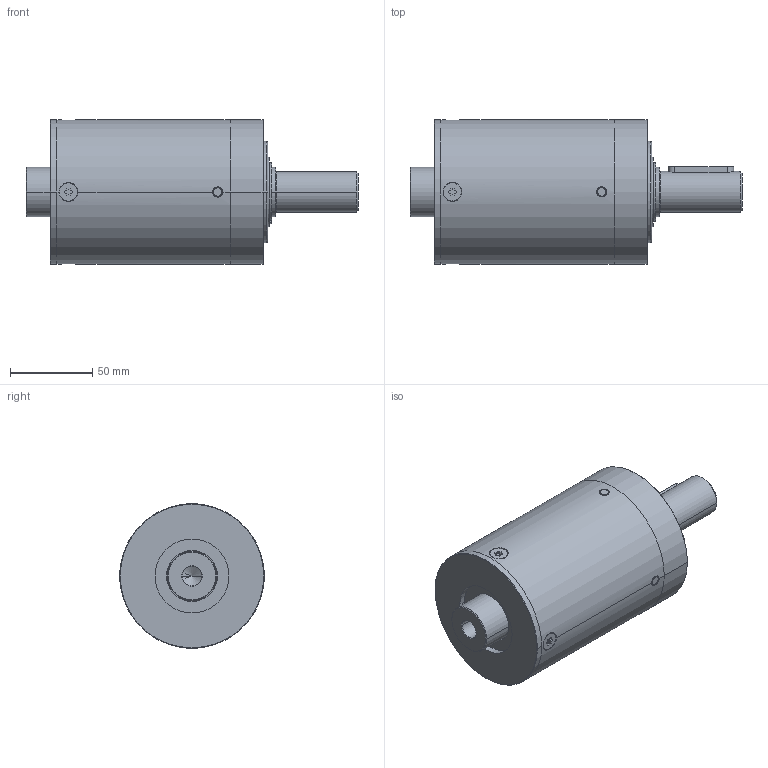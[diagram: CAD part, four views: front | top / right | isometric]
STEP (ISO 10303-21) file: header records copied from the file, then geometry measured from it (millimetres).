
FILE_DESCRIPTION((''),'2;1');
FILE_NAME('IMS88_PRO_MAX_2_STAGE_ASM','2023-07-27T09:47:48',('mhummel'),(''),'CREO PARAMETRIC BY PTC INC, 2020184','CREO PARAMETRIC BY PTC INC, 2020184','');
FILE_SCHEMA(('AUTOMOTIVE_DESIGN { 1 0 10303 214 1 1 1 1 }'));
Length unit declared in the file: millimetre
Products named in the file (16): IMS88_PRO_MAX_BEARIG_FLANGE; IMS88_PRO_MAX_BALL_BEARING; IMS88_PRO_MAX_RING_GEAR_2; IMS88_PRO_MAX_CYLINDER_PIN; IMS88_PRO_MAX_RING_GEAR_2_STAGE_ASM; IMS88_PRO_MAX_MOTOR_FLANGE; IMS88_PRO_MAX_SHAFT_RAW_AF0; IMS88_PRO_MAX_SHAFT_ASM; IMS88_PRO_MAX_SHIM_RING; IMS88_PRO_MAX_RETAINING_RING_A; IMS88_PRO_MAX_FEATHER_KEY; IMS88_PRO_MAX_THRUST_WASHER; IMS88_PRO_MAX_SCREW; IMS88_PRO_MAX_MO_PINION_LONG; IMS88_PRO_MAX_MO_PINION_SHORT; IMS88_PRO_MAX_2_STAGE_ASM
Assembly tree (22 placements, depth 3):
  IMS88_PRO_MAX_2_STAGE_ASM
    IMS88_PRO_MAX_BEARIG_FLANGE
    IMS88_PRO_MAX_BALL_BEARING  x2
    IMS88_PRO_MAX_RING_GEAR_2_STAGE_ASM
      IMS88_PRO_MAX_RING_GEAR_2
      IMS88_PRO_MAX_CYLINDER_PIN  x4
    IMS88_PRO_MAX_MOTOR_FLANGE
    IMS88_PRO_MAX_SHAFT_ASM
      IMS88_PRO_MAX_SHAFT_RAW_AF0
    IMS88_PRO_MAX_SHIM_RING
    IMS88_PRO_MAX_RETAINING_RING_A
    IMS88_PRO_MAX_FEATHER_KEY
    IMS88_PRO_MAX_THRUST_WASHER
    IMS88_PRO_MAX_SCREW  x4
    IMS88_PRO_MAX_MO_PINION_LONG
    IMS88_PRO_MAX_MO_PINION_SHORT
Bounding box: 202.05 x 88 x 88 mm (x, y, z)
Volume: 581505.9 mm3; surface area: 178071 mm2
Topology: 24 solids, 26 shells, 492 faces, 1105 edges, 660 vertices
Faces by surface type: cylinder 208, plane 120, cone 88, torus 60, revolution 16
Entity records: 13685 total; most frequent: CARTESIAN_POINT 2378, DIRECTION 1781, ORIENTED_EDGE 1410, PRESENTATION_STYLE_ASSIGNMENT 830, STYLED_ITEM 826, AXIS2_PLACEMENT_3D 745, CURVE_STYLE 709, EDGE_CURVE 705
